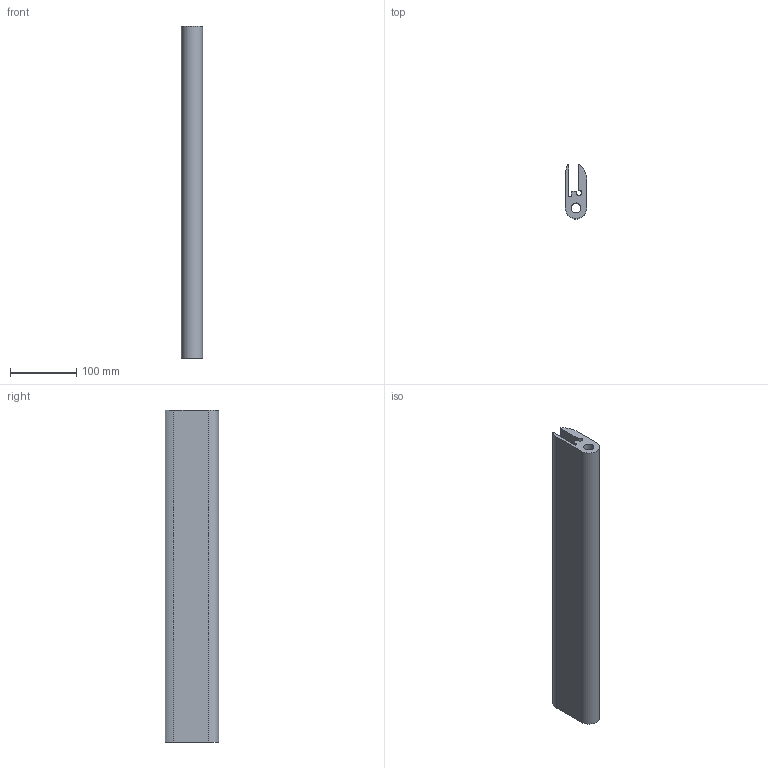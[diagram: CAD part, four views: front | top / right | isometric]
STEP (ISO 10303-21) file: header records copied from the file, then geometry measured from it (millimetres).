
FILE_DESCRIPTION (( 'STEP AP214' ), '1' );
FILE_NAME ('A40753B.step', '2024-12-03T16:12:34', ( '' ), ( '' ), 'SwSTEP 2.0', 'SolidWorks 2023', '' );
FILE_SCHEMA (( 'AUTOMOTIVE_DESIGN' ));
Length unit declared in the file: millimetre
Products named in the file (1): A40753B
Bounding box: 32 x 81 x 500 mm (x, y, z)
Volume: 760851.7 mm3; surface area: 181321.2 mm2
Topology: 1 solids, 1 shells, 23 faces, 63 edges, 42 vertices
Faces by surface type: cylinder 12, plane 11
Full cylindrical faces by diameter (mm): 15 x1
Entity records: 763 total; most frequent: DIRECTION 134, CARTESIAN_POINT 128, ORIENTED_EDGE 124, EDGE_CURVE 62, AXIS2_PLACEMENT_3D 48, VERTEX_POINT 42, LINE 38, VECTOR 38
